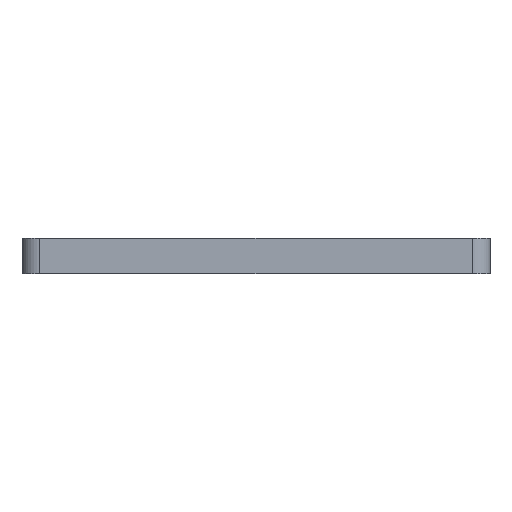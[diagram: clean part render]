
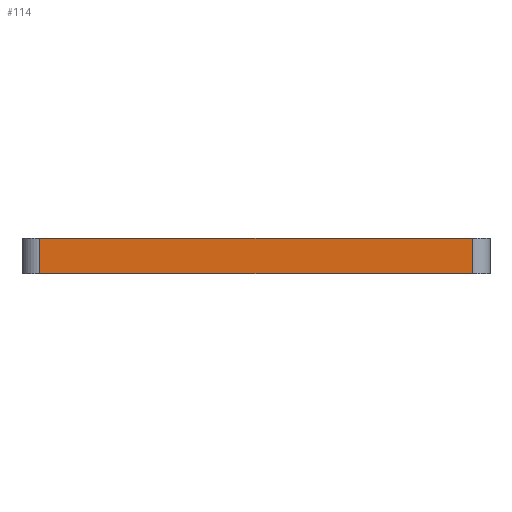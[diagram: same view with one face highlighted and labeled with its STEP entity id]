
A CAD part, left-side view. The second image highlights one B-rep face of the part: STEP entity #114.
In plain terms, the highlighted planar face has unit normal (-1, 0, 0).
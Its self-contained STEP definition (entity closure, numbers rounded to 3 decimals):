
#114=ADVANCED_FACE('23',(#245),#246,.T.);
#245=FACE_OUTER_BOUND('',#383,.T.);
#246=PLANE('',#384);
#383=EDGE_LOOP('',(#736,#737,#738,#739));
#384=AXIS2_PLACEMENT_3D('',#740,#741,#742);
#736=ORIENTED_EDGE('',*,*,#956,.F.);
#737=ORIENTED_EDGE('',*,*,#953,.T.);
#738=ORIENTED_EDGE('',*,*,#958,.F.);
#739=ORIENTED_EDGE('',*,*,#926,.T.);
#740=CARTESIAN_POINT('',(-62.5,20.0,0.0));
#741=DIRECTION('',(-1.0,0.0,0.0));
#742=DIRECTION('',(0.0,1.0,0.0));
#926=EDGE_CURVE('',#1109,#1107,#1110,.T.);
#953=EDGE_CURVE('',#1156,#1154,#1157,.T.);
#956=EDGE_CURVE('',#1156,#1107,#1160,.T.);
#958=EDGE_CURVE('',#1109,#1154,#1162,.T.);
#1107=VERTEX_POINT('',#1496);
#1109=VERTEX_POINT('',#1498);
#1110=LINE('',#1499,#1500);
#1154=VERTEX_POINT('',#1556);
#1156=VERTEX_POINT('',#1558);
#1157=LINE('',#1559,#1560);
#1160=LINE('',#1563,#1564);
#1162=LINE('',#1566,#1567);
#1496=CARTESIAN_POINT('',(-62.5,38.5,0.0));
#1498=CARTESIAN_POINT('',(-62.5,1.5,0.0));
#1499=CARTESIAN_POINT('',(-62.5,0.,0.0));
#1500=VECTOR('',#1674,1.0);
#1556=CARTESIAN_POINT('',(-62.5,1.5,-3.0));
#1558=CARTESIAN_POINT('',(-62.5,38.5,-3.0));
#1559=CARTESIAN_POINT('',(-62.5,0.,-3.0));
#1560=VECTOR('',#1717,1.0);
#1563=CARTESIAN_POINT('',(-62.5,38.5,0.0));
#1564=VECTOR('',#1721,1.0);
#1566=CARTESIAN_POINT('',(-62.5,1.5,0.0));
#1567=VECTOR('',#1722,1.0);
#1674=DIRECTION('',(0.0,1.0,0.0));
#1717=DIRECTION('',(-0.0,-1.0,-0.0));
#1721=DIRECTION('',(-0.0,-0.0,1.0));
#1722=DIRECTION('',(0.0,-0.0,-1.0));
